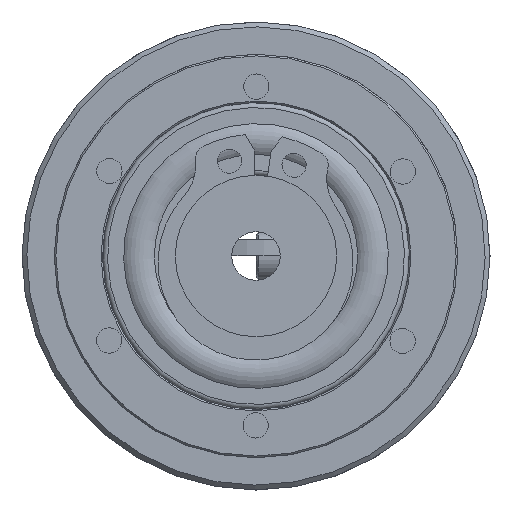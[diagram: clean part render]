
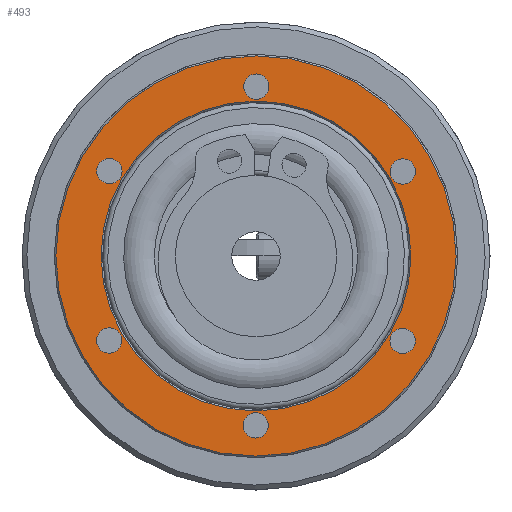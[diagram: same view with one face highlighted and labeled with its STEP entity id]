
A CAD part, left-side view. The second image highlights one B-rep face of the part: STEP entity #493.
In plain terms, the highlighted planar face has unit normal (-1, 0, 0).
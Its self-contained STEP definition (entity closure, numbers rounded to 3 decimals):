
#493 = ADVANCED_FACE( '', ( #868, #869, #870, #871, #872, #873, #874, #875 ), #876, .F. );
#868 = FACE_OUTER_BOUND( '', #1273, .T. );
#869 = FACE_BOUND( '', #1274, .T. );
#870 = FACE_BOUND( '', #1275, .T. );
#871 = FACE_BOUND( '', #1276, .T. );
#872 = FACE_BOUND( '', #1277, .T. );
#873 = FACE_BOUND( '', #1278, .T. );
#874 = FACE_BOUND( '', #1279, .T. );
#875 = FACE_BOUND( '', #1280, .T. );
#876 = PLANE( '', #1281 );
#1273 = EDGE_LOOP( '', ( #1903 ) );
#1274 = EDGE_LOOP( '', ( #1904 ) );
#1275 = EDGE_LOOP( '', ( #1905 ) );
#1276 = EDGE_LOOP( '', ( #1906 ) );
#1277 = EDGE_LOOP( '', ( #1907 ) );
#1278 = EDGE_LOOP( '', ( #1908 ) );
#1279 = EDGE_LOOP( '', ( #1909 ) );
#1280 = EDGE_LOOP( '', ( #1910 ) );
#1281 = AXIS2_PLACEMENT_3D( '', #1911, #1912, #1913 );
#1903 = ORIENTED_EDGE( '', *, *, #2424, .T. );
#1904 = ORIENTED_EDGE( '', *, *, #2425, .T. );
#1905 = ORIENTED_EDGE( '', *, *, #2426, .T. );
#1906 = ORIENTED_EDGE( '', *, *, #2422, .T. );
#1907 = ORIENTED_EDGE( '', *, *, #2419, .T. );
#1908 = ORIENTED_EDGE( '', *, *, #2421, .T. );
#1909 = ORIENTED_EDGE( '', *, *, #2416, .T. );
#1910 = ORIENTED_EDGE( '', *, *, #2427, .T. );
#1911 = CARTESIAN_POINT( '', ( -6.1, 9.5, 0. ) );
#1912 = DIRECTION( '', ( 1., 0., 0. ) );
#1913 = DIRECTION( '', ( 0., 1., 0. ) );
#2416 = EDGE_CURVE( '', #2729, #2729, #2730, .T. );
#2419 = EDGE_CURVE( '', #2735, #2735, #2736, .T. );
#2421 = EDGE_CURVE( '', #2739, #2739, #2740, .T. );
#2422 = EDGE_CURVE( '', #2741, #2741, #2742, .T. );
#2424 = EDGE_CURVE( '', #2745, #2745, #2746, .T. );
#2425 = EDGE_CURVE( '', #2747, #2747, #2748, .T. );
#2426 = EDGE_CURVE( '', #2749, #2749, #2750, .T. );
#2427 = EDGE_CURVE( '', #2751, #2751, #2752, .T. );
#2729 = VERTEX_POINT( '', #3187 );
#2730 = CIRCLE( '', #3188, 0.784 );
#2735 = VERTEX_POINT( '', #3193 );
#2736 = CIRCLE( '', #3194, 0.784 );
#2739 = VERTEX_POINT( '', #3197 );
#2740 = CIRCLE( '', #3198, 0.784 );
#2741 = VERTEX_POINT( '', #3199 );
#2742 = CIRCLE( '', #3200, 0.784 );
#2745 = VERTEX_POINT( '', #3203 );
#2746 = CIRCLE( '', #3204, 12.4 );
#2747 = VERTEX_POINT( '', #3205 );
#2748 = CIRCLE( '', #3206, 0.784 );
#2749 = VERTEX_POINT( '', #3207 );
#2750 = CIRCLE( '', #3208, 0.783 );
#2751 = VERTEX_POINT( '', #3209 );
#2752 = CIRCLE( '', #3210, 9.6 );
#3187 = CARTESIAN_POINT( '', ( -6.1, 0., 11.284 ) );
#3188 = AXIS2_PLACEMENT_3D( '', #3791, #3792, #3793 );
#3193 = CARTESIAN_POINT( '', ( -6.1, -9.772, -5.642 ) );
#3194 = AXIS2_PLACEMENT_3D( '', #3800, #3801, #3802 );
#3197 = CARTESIAN_POINT( '', ( -6.1, -9.772, 5.642 ) );
#3198 = AXIS2_PLACEMENT_3D( '', #3806, #3807, #3808 );
#3199 = CARTESIAN_POINT( '', ( -6.1, 0., -11.284 ) );
#3200 = AXIS2_PLACEMENT_3D( '', #3809, #3810, #3811 );
#3203 = CARTESIAN_POINT( '', ( -6.1, 0., -12.4 ) );
#3204 = AXIS2_PLACEMENT_3D( '', #3815, #3816, #3817 );
#3205 = CARTESIAN_POINT( '', ( -6.1, 9.772, 5.642 ) );
#3206 = AXIS2_PLACEMENT_3D( '', #3818, #3819, #3820 );
#3207 = CARTESIAN_POINT( '', ( -6.1, 9.772, -5.642 ) );
#3208 = AXIS2_PLACEMENT_3D( '', #3821, #3822, #3823 );
#3209 = CARTESIAN_POINT( '', ( -6.1, 0., -9.6 ) );
#3210 = AXIS2_PLACEMENT_3D( '', #3824, #3825, #3826 );
#3791 = CARTESIAN_POINT( '', ( -6.1, 0., 10.5 ) );
#3792 = DIRECTION( '', ( 1., 0., 0. ) );
#3793 = DIRECTION( '', ( 0., 0., 1. ) );
#3800 = CARTESIAN_POINT( '', ( -6.1, -9.093, -5.25 ) );
#3801 = DIRECTION( '', ( 1., 0., 0. ) );
#3802 = DIRECTION( '', ( 0., -0.866, -0.5 ) );
#3806 = CARTESIAN_POINT( '', ( -6.1, -9.093, 5.25 ) );
#3807 = DIRECTION( '', ( 1., 0., 0. ) );
#3808 = DIRECTION( '', ( 0., -0.866, 0.5 ) );
#3809 = CARTESIAN_POINT( '', ( -6.1, 0., -10.5 ) );
#3810 = DIRECTION( '', ( 1., 0., 0. ) );
#3811 = DIRECTION( '', ( 0., 0., -1. ) );
#3815 = CARTESIAN_POINT( '', ( -6.1, 0., 0. ) );
#3816 = DIRECTION( '', ( -1., 0., 0. ) );
#3817 = DIRECTION( '', ( 0., 0., -1. ) );
#3818 = CARTESIAN_POINT( '', ( -6.1, 9.093, 5.25 ) );
#3819 = DIRECTION( '', ( 1., 0., 0. ) );
#3820 = DIRECTION( '', ( 0., 0.866, 0.5 ) );
#3821 = CARTESIAN_POINT( '', ( -6.1, 9.093, -5.25 ) );
#3822 = DIRECTION( '', ( 1., 0., 0. ) );
#3823 = DIRECTION( '', ( 0., 0.866, -0.5 ) );
#3824 = CARTESIAN_POINT( '', ( -6.1, 0., 0. ) );
#3825 = DIRECTION( '', ( 1., 0., 0. ) );
#3826 = DIRECTION( '', ( 0., 0., -1. ) );
